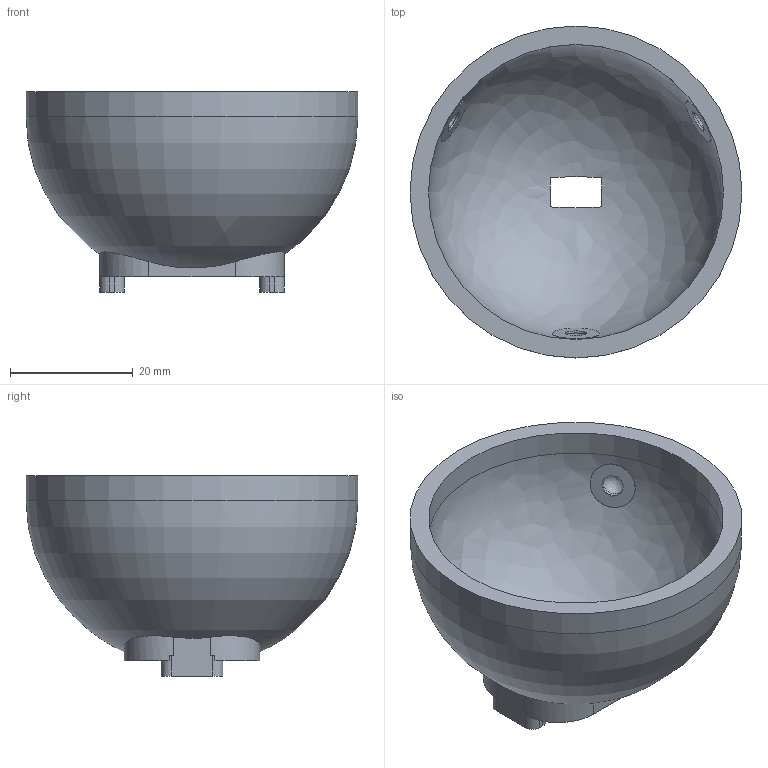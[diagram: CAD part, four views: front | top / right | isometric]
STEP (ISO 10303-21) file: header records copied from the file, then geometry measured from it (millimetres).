
FILE_DESCRIPTION(('Open CASCADE Model'),'2;1');
FILE_NAME('Open CASCADE Shape Model','2026-05-31T19:43:15',('Author'),( 'Open CASCADE'),'Open CASCADE STEP processor 7.6','Open CASCADE 7.6' ,'Unknown');
FILE_SCHEMA(('AP242_MANAGED_MODEL_BASED_3D_ENGINEERING_MIM_LF. {1 0 10303 442 1 1 4 }'));
Length unit declared in the file: millimetre
Products named in the file (1): Open CASCADE STEP translator 7.6 7
Bounding box: 54 x 54 x 32.6 mm (x, y, z)
Volume: 14540.3 mm3; surface area: 10479 mm2
Topology: 1 solids, 1 shells, 80 faces, 209 edges, 137 vertices
Faces by surface type: plane 35, cylinder 31, revolution 8, bspline 4, cone 2
Full cylindrical faces by diameter (mm): 2.05 x2, 3.57 x3, 3.572 x3, 7.57 x3, 48 x1, 54 x1
Entity records: 8565 total; most frequent: CARTESIAN_POINT 4447, DIRECTION 765, ORIENTED_EDGE 408, PCURVE 408, DEFINITIONAL_REPRESENTATION 408, LINE 403, VECTOR 403, EDGE_CURVE 204
